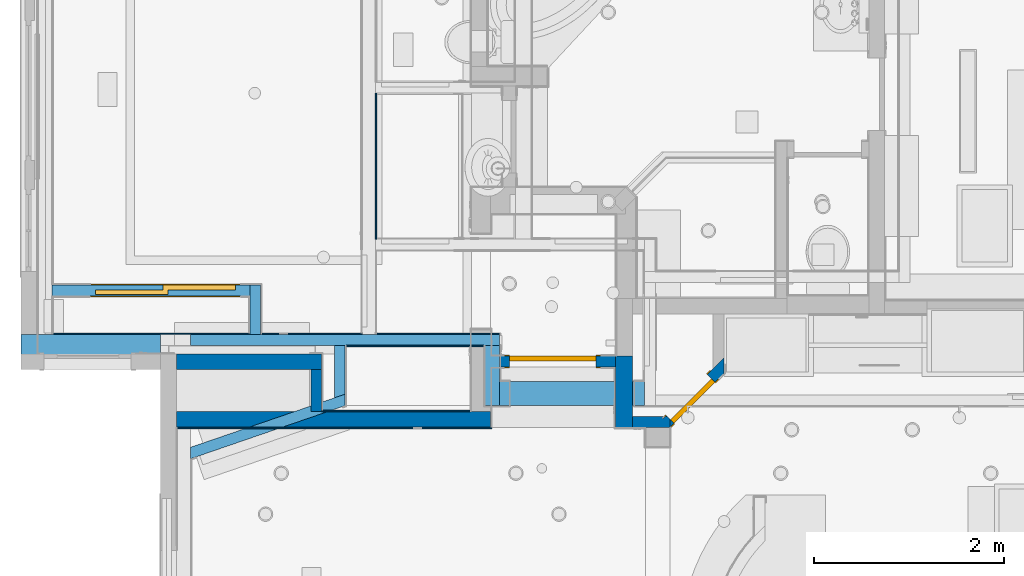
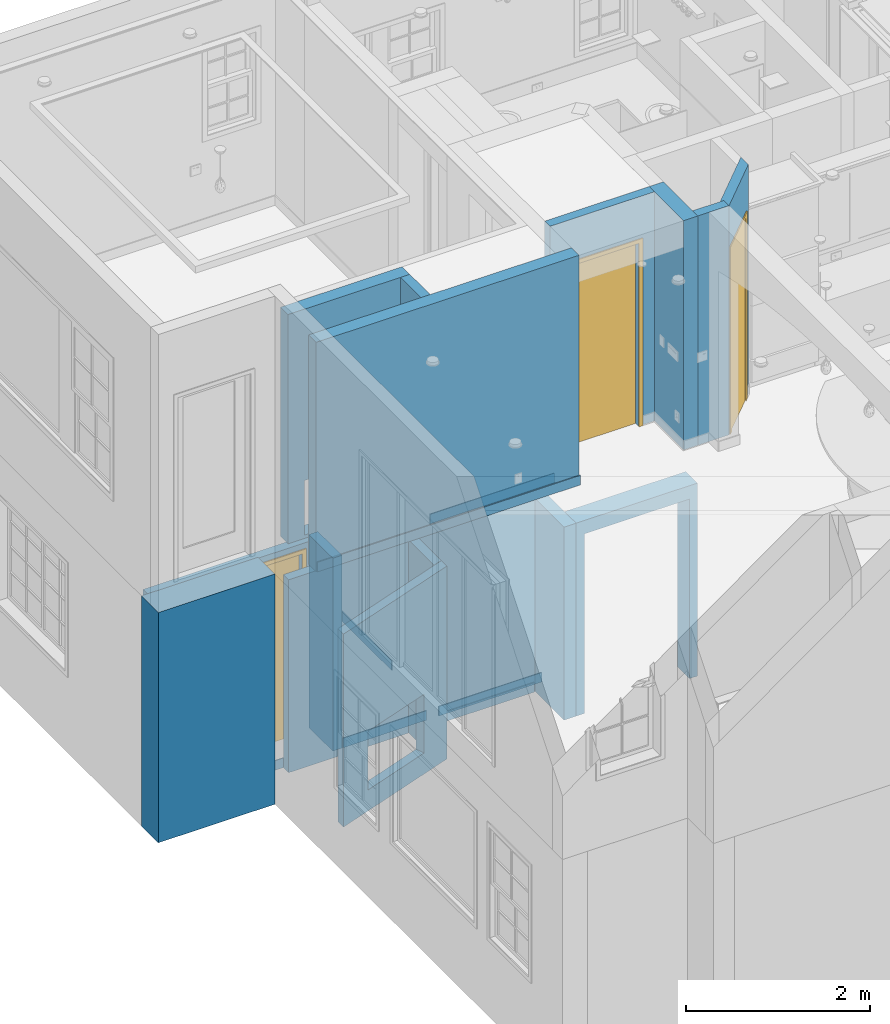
# One storey, part 8 of 81: 22 walls, 3 doors, 9 openings.
"""IFC2X3 building model written with IfcOpenShell, lengths in feet."""

from ifc_helpers import new_model, entity, si_unit, converted_unit, derived_unit, direction, frame, frame_2d, origin, origin_2d_with_axis, place, context, subcontext, project, spatial, polyline, rectangle, outline, extrude, clip, bounded_halfspace, faceted_brep, source, transform, mapped, material, material_list, layer, layer_set, layer_usage, type_object, type_shapes, element, fill, save


model = new_model("IFC2X3")

# Units and contexts
model_context = context("Model", 3, precision=0.0001, world=origin(), true_north=direction((6.12303176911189e-17, 1.0)))
body_context = subcontext(model_context, "Body", "Model", "MODEL_VIEW")
ifc_project = project(units=[converted_unit("LENGTHUNIT", "FOOT", entity("IfcRatioMeasure", 0.3048), si_unit("LENGTHUNIT", "METRE"), dimensions=[1, 0, 0, 0, 0, 0, 0]), converted_unit("AREAUNIT", "SQUARE FOOT", entity("IfcRatioMeasure", 0.09290304), si_unit("AREAUNIT", "SQUARE_METRE"), dimensions=[2, 0, 0, 0, 0, 0, 0]), converted_unit("VOLUMEUNIT", "CUBIC FOOT", entity("IfcRatioMeasure", 0.028316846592), si_unit("VOLUMEUNIT", "CUBIC_METRE"), dimensions=[3, 0, 0, 0, 0, 0, 0]), converted_unit("PLANEANGLEUNIT", "DEGREE", entity("IfcRatioMeasure", 0.0174532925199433), si_unit("PLANEANGLEUNIT", "RADIAN"), dimensions=[0, 0, 0, 0, 0, 0, 0]), si_unit("MASSUNIT", "GRAM", prefix="KILO"), derived_unit("MASSDENSITYUNIT", [(si_unit("MASSUNIT", "GRAM", prefix="KILO"), 1), (si_unit("LENGTHUNIT", "METRE"), -3)]), derived_unit("MOMENTOFINERTIAUNIT", [(si_unit("LENGTHUNIT", "METRE"), 4)]), si_unit("TIMEUNIT", "SECOND"), si_unit("FREQUENCYUNIT", "HERTZ"), si_unit("THERMODYNAMICTEMPERATUREUNIT", "DEGREE_CELSIUS"), derived_unit("THERMALTRANSMITTANCEUNIT", [(si_unit("MASSUNIT", "GRAM", prefix="KILO"), 1), (si_unit("THERMODYNAMICTEMPERATUREUNIT", "KELVIN"), -1), (si_unit("TIMEUNIT", "SECOND"), -3)]), derived_unit("VOLUMETRICFLOWRATEUNIT", [(si_unit("LENGTHUNIT", "METRE"), 3), (si_unit("TIMEUNIT", "SECOND"), -1)]), si_unit("ELECTRICCURRENTUNIT", "AMPERE"), si_unit("ELECTRICVOLTAGEUNIT", "VOLT"), si_unit("POWERUNIT", "WATT"), si_unit("FORCEUNIT", "NEWTON"), si_unit("ILLUMINANCEUNIT", "LUX"), si_unit("LUMINOUSFLUXUNIT", "LUMEN"), si_unit("LUMINOUSINTENSITYUNIT", "CANDELA"), derived_unit("USERDEFINED", [(si_unit("MASSUNIT", "GRAM", prefix="KILO"), -1), (si_unit("LENGTHUNIT", "METRE"), -2), (si_unit("TIMEUNIT", "SECOND"), 3), (si_unit("LUMINOUSFLUXUNIT", "LUMEN"), 1)]), derived_unit("LINEARVELOCITYUNIT", [(si_unit("LENGTHUNIT", "METRE"), 1), (si_unit("TIMEUNIT", "SECOND"), -1)]), si_unit("PRESSUREUNIT", "PASCAL"), derived_unit("USERDEFINED", [(si_unit("LENGTHUNIT", "METRE"), -2), (si_unit("MASSUNIT", "GRAM", prefix="KILO"), 1), (si_unit("TIMEUNIT", "SECOND"), -2)]), derived_unit("LINEARFORCEUNIT", [(si_unit("MASSUNIT", "GRAM", prefix="KILO"), 1), (si_unit("LENGTHUNIT", "METRE"), 1), (si_unit("TIMEUNIT", "SECOND"), -2), (si_unit("LENGTHUNIT", "METRE"), -1)]), derived_unit("PLANARFORCEUNIT", [(si_unit("MASSUNIT", "GRAM", prefix="KILO"), 1), (si_unit("LENGTHUNIT", "METRE"), 1), (si_unit("TIMEUNIT", "SECOND"), -2), (si_unit("LENGTHUNIT", "METRE"), -2)])], contexts=[model_context])

# Site, building, storey
site_placement = place(None, origin())
site = spatial("IfcSite", under=ifc_project, at=site_placement, Name="Default", CompositionType="ELEMENT")
building_placement = place(site_placement, origin())
building = spatial("IfcBuilding", under=site, at=building_placement, CompositionType="ELEMENT")
storey_placement = place(building_placement, origin())
storey = spatial("IfcBuildingStorey", under=building, at=storey_placement, Name="First floor", CompositionType="ELEMENT", Elevation=0.0)

# Wall, openings
ifc_material = material(Name="Default New Material")
ifc_layer_1 = layer(ifc_material, 0.541666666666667)
ifc_layer_set_1 = layer_set([ifc_layer_1], Name="Basic Wall:Wall_6.5\"")
ifc_layer_usage_1 = layer_usage(ifc_layer_set_1, "AXIS2", "NEGATIVE", 0.270833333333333)
wall_type_1 = type_object("IfcWallType", Name="Basic Wall:Wall_6.5\"", PredefinedType="STANDARD", material=ifc_layer_set_1)
wall_1_placement = place(storey_placement, frame((-16.5, 31.3125, 10.6666666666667)))
wall_1 = element("IfcWallStandardCase", 1, at=wall_1_placement, inside=storey, type_object=wall_type_1, material=ifc_layer_usage_1, Name="Basic Wall:Wall_6.5\"", ObjectType="Basic Wall:Wall_6.5\"", context=body_context, shape_type="SweptSolid", body=[
    extrude(rectangle(XDim=5.02083333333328, YDim=0.541666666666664, at=frame_2d((2.51041666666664, 5.82867087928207e-16), x_axis=(-1.0, 0.0))), origin(), (0.0, 0.0, 1.0), 10.0),
])
opening_1_placement = place(wall_1_placement, origin())
element("IfcOpeningElement", 2, at=opening_1_placement, cuts=wall_1, Name="Basic Wall:Wall_6.5\"", ObjectType="Recess", context=body_context, shape_type="SweptSolid", body=[
    extrude(rectangle(XDim=4.33333333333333, YDim=3.83333333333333, at=frame_2d((-8.88178419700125e-16, 0.0), x_axis=(1.0, 0.0))), frame((2.10416666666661, -0.229166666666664, 6.66666666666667), z_axis=(0.0, 1.0, 0.0), x_axis=(0.0, 0.0, -1.0)), (0.0, 0.0, 1.0), 0.5),
])
opening_2_placement = place(wall_1_placement, origin())
element("IfcOpeningElement", 3, at=opening_2_placement, cuts=wall_1, Name="Basic Wall:Wall_6.5\"", ObjectType="Opening", context=body_context, shape_type="SweptSolid", body=[
    extrude(rectangle(XDim=2.375, YDim=3.16666666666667, at=frame_2d((1.77635683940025e-15, 8.88178419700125e-16), x_axis=(0.0, 1.0))), frame((2.27084441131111, -0.42018629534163, 1.33333333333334), z_axis=(0.0, 1.0, 0.0), x_axis=(-1.0, 0.0, 0.0)), (0.0, 0.0, 1.0), 0.691019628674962),
])

# Walls
ifc_layer_usage_2 = layer_usage(ifc_layer_set_1, "AXIS2", "NEGATIVE", 0.270833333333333)
wall_2_placement = place(storey_placement, frame((-16.5, 29.3125, 10.6666666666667)))
element("IfcWallStandardCase", 4, at=wall_2_placement, inside=storey, type_object=wall_type_1, material=ifc_layer_usage_2, Name="Basic Wall:Wall_6.5\"", ObjectType="Basic Wall:Wall_6.5\"", context=body_context, shape_type="SweptSolid", body=[
    extrude(rectangle(XDim=10.8541666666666, YDim=0.541666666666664, at=frame_2d((5.42708333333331, 0.0), x_axis=(-1.0, 0.0))), origin(), (0.0, 0.0, 1.0), 10.0),
])
ifc_layer_2 = layer(ifc_material, 0.375)
ifc_layer_set_2 = layer_set([ifc_layer_2], Name="Basic Wall:Wall_4.5\"")
ifc_layer_usage_3 = layer_usage(ifc_layer_set_2, "AXIS2", "NEGATIVE", 0.1875)
wall_type_2 = type_object("IfcWallType", Name="Basic Wall:Wall_4.5\"", PredefinedType="STANDARD", material=ifc_layer_set_2)
wall_3_placement = place(storey_placement, frame((-11.6666666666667, 31.0416666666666, 10.6666666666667), z_axis=(0.0, 0.0, 1.0), x_axis=(0.0, -1.0, 0.0)))
element("IfcWallStandardCase", 5, at=wall_3_placement, inside=storey, type_object=wall_type_2, material=ifc_layer_usage_3, Name="Basic Wall:Wall_4.5\"", ObjectType="Basic Wall:Wall_4.5\"", context=body_context, shape_type="SweptSolid", body=[
    extrude(rectangle(XDim=1.45833333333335, YDim=0.375, at=frame_2d((0.729166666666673, 0.0), x_axis=(-1.0, 0.0))), origin(), (0.0, 0.0, 1.0), 10.0),
])

# Wall, openings
ifc_layer_usage_4 = layer_usage(ifc_layer_set_2, "AXIS2", "NEGATIVE", 0.1875)
wall_4_placement = place(storey_placement, frame((-0.749999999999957, 29.2291666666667, 10.6666666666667)))
wall_4 = element("IfcWallStandardCase", 6, at=wall_4_placement, inside=storey, type_object=wall_type_2, material=ifc_layer_usage_4, Name="Basic Wall:Wall_4.5\"", ObjectType="Basic Wall:Wall_4.5\"", context=body_context, shape_type="SweptSolid", body=[
    extrude(rectangle(XDim=1.29166666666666, YDim=0.375, at=frame_2d((0.64583333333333, 0.0), x_axis=(-1.0, 0.0))), origin(), (0.0, 0.0, 1.0), 10.0),
])
opening_3_placement = place(wall_4_placement, origin())
element("IfcOpeningElement", 7, at=opening_3_placement, cuts=wall_4, Name="Basic Wall:Wall_4.5\"", ObjectType="Opening", context=body_context, shape_type="SweptSolid", body=[
    extrude(rectangle(XDim=8.0, YDim=0.374999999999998, at=frame_2d((1.87350135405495e-15, -8.88178419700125e-16), x_axis=(0.0, 1.0))), frame((1.30648797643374, 0.0924863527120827, 4.0), z_axis=(0.707106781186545, 0.70710678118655, 0.0), x_axis=(0.70710678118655, -0.707106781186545, 0.0)), (0.0, 0.0, 1.0), 2.0),
])
opening_4_placement = place(wall_4_placement, frame((1.0265915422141, 0.107217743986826, 0.0)))
element("IfcOpeningElement", 8, at=opening_4_placement, cuts=wall_4, Name="Basic Wall:Wall_4.5\"", ObjectType="Recess", context=body_context, shape_type="Brep", body=[
    faceted_brep([(0.0, 0.0294627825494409, 0.0), (0.050819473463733, 0.0802822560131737, 0.0), (0.109745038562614, 0.0802822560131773, 0.0), (0.0294627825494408, 0.0, 0.0), (0.0, 0.0294627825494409, 8.16666666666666), (0.0294627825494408, 0.0, 8.16666666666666), (0.109745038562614, 0.0802822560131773, 8.16666666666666), (0.0508194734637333, 0.0802822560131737, 8.16666666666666)], [[[0, 1, 2, 3]], [[4, 5, 6, 7]], [[5, 4, 0, 3]], [[6, 5, 3, 2]], [[7, 6, 2, 1]], [[4, 7, 1, 0]]]),
])

# Wall, opening, door
ifc_layer_usage_5 = layer_usage(ifc_layer_set_2, "AXIS2", "NEGATIVE", 0.1875)
wall_5_placement = place(storey_placement, frame((0.409084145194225, 29.1742491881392, 10.6666666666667), z_axis=(0.0, 0.0, 1.0), x_axis=(0.707106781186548, 0.707106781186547, 0.0)))
wall_5 = element("IfcWallStandardCase", 9, at=wall_5_placement, inside=storey, type_object=wall_type_2, material=ifc_layer_usage_5, Name="Basic Wall:Wall_4.5\"", ObjectType="Basic Wall:Wall_4.5\"", context=body_context, shape_type="SweptSolid", body=[
    extrude(outline(polyline([(0.0, -0.187499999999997), (2.65117364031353, -0.187499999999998), (3.02617364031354, 0.187500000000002), (2.49584355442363, 0.187500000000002), (0.155330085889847, 0.187500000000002), (0.265165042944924, 0.0776650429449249), (0.0, -0.187499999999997)])), origin(), (0.0, 0.0, 1.0), 10.0),
])
opening_5_placement = place(wall_5_placement, frame((2.20846049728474, 0.187499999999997, 0.0)))
opening_5 = element("IfcOpeningElement", 10, at=opening_5_placement, cuts=wall_5, Name="Door_1:2'-0\" X 8'-0\":1", ObjectType="Opening", context=body_context, shape_type="SweptSolid", body=[
    extrude(rectangle(XDim=2.0, YDim=8.0, at=frame_2d((4.0, 1.0), x_axis=(0.0, 1.0))), frame((0.0, 0.0, 0.0), z_axis=(0.0, -1.0, 0.0), x_axis=(0.0, 0.0, 1.0)), (0.0, 0.0, 1.0), 0.375),
])
ifc_material_list_1 = material_list([ifc_material, ifc_material])
door_style_1 = type_object("IfcDoorStyle", Name="Door_1:2'-0\" X 8'-0\"", ConstructionType="NOTDEFINED", OperationType="SINGLE_SWING_RIGHT", ParameterTakesPrecedence=False, Sizeable=False, material=ifc_material_list_1)
shared_shape_1 = source(origin(), body_context, "Body", "SweptSolid", [
    extrude(outline(polyline([(-1.16666666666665, -4.125), (1.16666666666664, -4.125), (1.16666666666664, 4.04166666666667), (1.0, 4.04166666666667), (1.0, -3.95833333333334), (-1.0, -3.95833333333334), (-1.0, 4.04166666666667), (-1.16666666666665, 4.04166666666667), (-1.16666666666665, -4.125)])), frame((1.0, 0.375000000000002, 4.04166666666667), z_axis=(0.0, 1.0, 0.0), x_axis=(1.0, 0.0, 0.0)), (0.0, 0.0, 1.0), 0.0416666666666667),
    extrude(outline(polyline([(-4.125, -1.16666666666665), (4.04166666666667, -1.16666666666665), (4.04166666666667, -1.0), (-3.95833333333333, -1.0), (-3.95833333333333, 1.0), (4.04166666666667, 1.0), (4.04166666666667, 1.16666666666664), (-4.125, 1.16666666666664), (-4.125, -1.16666666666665)])), frame((1.0, -0.0416666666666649, 4.04166666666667), z_axis=(0.0, 1.0, 0.0), x_axis=(0.0, 0.0, -1.0)), (0.0, 0.0, 1.0), 0.0416666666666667),
    extrude(rectangle(XDim=0.166666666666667, YDim=2.0, at=origin_2d_with_axis()), frame((1.0, 0.291666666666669, 0.0), z_axis=(0.0, 0.0, 1.0), x_axis=(0.0, 1.0, 0.0)), (0.0, 0.0, 1.0), 8.0),
])
type_shapes(door_style_1, [shared_shape_1])
door_1_placement = place(opening_5_placement, frame((0.0, 0.0, 0.0), z_axis=(0.0, 0.0, 1.0), x_axis=(-1.0, 0.0, 0.0)))
door_1 = element("IfcDoor", 11, at=door_1_placement, inside=storey, type_object=door_style_1, material=ifc_material, Name="Door_1:2'-0\" X 8'-0\"", ObjectType="Door_1:2'-0\" X 8'-0\"", OverallHeight=8.0, OverallWidth=2.0, context=body_context, shape_type="MappedRepresentation", body=[
    mapped(shared_shape_1, transform((0.0, 0.0, 0.0), scale=1.0)),
])
fill(opening_5, door_1)

ifc_layer_usage_6 = layer_usage(ifc_layer_set_2, "AXIS2", "NEGATIVE", 0.1875)
wall_6_placement = place(storey_placement, frame((-5.64583333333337, 31.3125, 10.6666666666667)))
wall_6 = element("IfcWallStandardCase", 12, at=wall_6_placement, inside=storey, type_object=wall_type_2, material=ifc_layer_usage_6, Name="Basic Wall:Wall_4.5\"", ObjectType="Basic Wall:Wall_4.5\"", context=body_context, shape_type="SweptSolid", body=[
    extrude(rectangle(XDim=4.31250000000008, YDim=0.375, at=frame_2d((2.15625000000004, -8.46545056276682e-16), x_axis=(-1.0, 0.0))), origin(), (0.0, 0.0, 1.0), 10.0),
])
opening_6_placement = place(wall_6_placement, frame((0.645833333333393, -0.187500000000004, 0.0)))
opening_6 = element("IfcOpeningElement", 13, at=opening_6_placement, cuts=wall_6, Name="Door_1:3'-0\" X 8'-0\":1", ObjectType="Opening", context=body_context, shape_type="SweptSolid", body=[
    extrude(rectangle(XDim=3.0, YDim=8.0, at=frame_2d((4.0, 1.5), x_axis=(0.0, 1.0))), frame((0.0, 0.0, 0.0), z_axis=(0.0, 1.0, 0.0), x_axis=(0.0, 0.0, 1.0)), (0.0, 0.0, 1.0), 0.375),
])
ifc_material_list_2 = material_list([ifc_material, ifc_material])
door_style_2 = type_object("IfcDoorStyle", Name="Door_1:3'-0\" X 8'-0\"", ConstructionType="NOTDEFINED", OperationType="SINGLE_SWING_RIGHT", ParameterTakesPrecedence=False, Sizeable=False, material=ifc_material_list_2)
shared_shape_2 = source(origin(), body_context, "Body", "SweptSolid", [
    extrude(outline(polyline([(-1.66666666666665, -4.125), (1.66666666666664, -4.125), (1.66666666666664, 4.04166666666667), (1.50000000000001, 4.04166666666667), (1.50000000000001, -3.95833333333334), (-1.49999999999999, -3.95833333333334), (-1.49999999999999, 4.04166666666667), (-1.66666666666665, 4.04166666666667), (-1.66666666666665, -4.125)])), frame((1.49999999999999, 0.375000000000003, 4.04166666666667), z_axis=(0.0, 1.0, 0.0), x_axis=(1.0, 0.0, 0.0)), (0.0, 0.0, 1.0), 0.0416666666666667),
    extrude(outline(polyline([(-4.125, -1.66666666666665), (4.04166666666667, -1.66666666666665), (4.04166666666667, -1.49999999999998), (-3.95833333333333, -1.49999999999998), (-3.95833333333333, 1.49999999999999), (4.04166666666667, 1.49999999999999), (4.04166666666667, 1.66666666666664), (-4.125, 1.66666666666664), (-4.125, -1.66666666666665)])), frame((1.49999999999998, -0.0416666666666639, 4.04166666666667), z_axis=(0.0, 1.0, 0.0), x_axis=(0.0, 0.0, -1.0)), (0.0, 0.0, 1.0), 0.0416666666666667),
    extrude(rectangle(XDim=0.166666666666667, YDim=3.0, at=origin_2d_with_axis()), frame((1.5, 0.291666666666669, 0.0), z_axis=(0.0, 0.0, 1.0), x_axis=(0.0, 1.0, 0.0)), (0.0, 0.0, 1.0), 8.0),
])
type_shapes(door_style_2, [shared_shape_2])
door_2_placement = place(opening_6_placement, origin())
door_2 = element("IfcDoor", 14, at=door_2_placement, inside=storey, type_object=door_style_2, material=ifc_material, Name="Door_1:3'-0\" X 8'-0\"", ObjectType="Door_1:3'-0\" X 8'-0\"", OverallHeight=8.0, OverallWidth=3.0, context=body_context, shape_type="MappedRepresentation", body=[
    mapped(shared_shape_2, transform((0.0, 0.0, 0.0), scale=1.0)),
])
fill(opening_6, door_2)

# Wall, opening
ifc_layer_usage_7 = layer_usage(ifc_layer_set_2, "AXIS2", "NEGATIVE", 0.1875)
wall_7_placement = place(storey_placement, frame((-10.6057142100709, 30.0108877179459, 0.0), z_axis=(0.0, 0.0, 1.0), x_axis=(-0.945686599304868, -0.325079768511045, 0.0)))
wall_7 = element("IfcWallStandardCase", 15, at=wall_7_placement, inside=storey, type_object=wall_type_2, material=ifc_layer_usage_7, Name="Basic Wall:Wall_4.5\"", ObjectType="Basic Wall:Wall_4.5\"", context=body_context, shape_type="SweptSolid", body=[
    extrude(outline(polyline([(5.63964143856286, -0.187500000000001), (5.76854768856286, 0.187499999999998), (0.128906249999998, 0.187499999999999), (0.0, -0.1875), (0.39653728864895, -0.187500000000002), (5.63964143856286, -0.187500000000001)])), origin(), (0.0, 0.0, 1.0), 8.41666666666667),
])
opening_7_placement = place(wall_7_placement, origin())
element("IfcOpeningElement", 16, at=opening_7_placement, cuts=wall_7, Name="Basic Wall:Wall_4.5\"", ObjectType="Opening", context=body_context, shape_type="SweptSolid", body=[
    extrude(rectangle(XDim=2.5625, YDim=3.04166666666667, at=frame_2d((7.7715611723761e-16, 0.0), x_axis=(0.0, 1.0))), frame((2.89973958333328, -0.883333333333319, 2.19791666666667), z_axis=(0.0, 1.0, 0.0), x_axis=(-1.0, 0.0, 0.0)), (0.0, 0.0, 1.0), 1.07083333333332),
])

# Walls
ifc_layer_usage_8 = layer_usage(ifc_layer_set_2, "AXIS2", "POSITIVE", -0.1875)
wall_8_placement = place(storey_placement, frame((-10.8541666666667, 30.0592977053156, 0.0), z_axis=(0.0, 0.0, 1.0), x_axis=(0.0, 1.0, 0.0)))
element("IfcWallStandardCase", 17, at=wall_8_placement, inside=storey, type_object=wall_type_2, material=ifc_layer_usage_8, Name="Basic Wall:Wall_4.5\"", ObjectType="Basic Wall:Wall_4.5\"", context=body_context, shape_type="SweptSolid", body=[
    extrude(outline(polyline([(1.81570229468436, -0.1875), (1.81570229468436, 0.1875), (0.0, 0.1875), (0.128906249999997, -0.1875), (1.81570229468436, -0.1875)])), origin(), (0.0, 0.0, 1.0), 8.41666666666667),
])
ifc_layer_usage_9 = layer_usage(ifc_layer_set_2, "AXIS2", "NEGATIVE", 0.1875)
wall_9_placement = place(storey_placement, frame((-16.0, 32.0625, 0.0)))
element("IfcWallStandardCase", 18, at=wall_9_placement, inside=storey, type_object=wall_type_2, material=ifc_layer_usage_9, Name="Basic Wall:Wall_4.5\"", ObjectType="Basic Wall:Wall_4.5\"", context=body_context, shape_type="SweptSolid", body=[
    extrude(rectangle(XDim=10.6666666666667, YDim=0.375, at=frame_2d((5.33333333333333, 6.93889390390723e-16), x_axis=(-1.0, 0.0))), origin(), (0.0, 0.0, 1.0), 8.41666666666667),
])
ifc_layer_usage_10 = layer_usage(ifc_layer_set_2, "AXIS2", "POSITIVE", -0.1875)
wall_10_placement = place(storey_placement, frame((-13.7708333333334, 32.25, 0.0), z_axis=(0.0, 0.0, 1.0), x_axis=(0.0, 1.0, 0.0)))
element("IfcWallStandardCase", 19, at=wall_10_placement, inside=storey, type_object=wall_type_2, material=ifc_layer_usage_10, Name="Basic Wall:Wall_4.5\"", ObjectType="Basic Wall:Wall_4.5\"", context=body_context, shape_type="SweptSolid", body=[
    extrude(rectangle(XDim=1.70833333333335, YDim=0.375, at=frame_2d((0.854166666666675, 4.9960036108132e-16), x_axis=(-1.0, 0.0))), origin(), (0.0, 0.0, 1.0), 8.41666666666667),
])

# Wall, opening, door
ifc_layer_usage_11 = layer_usage(ifc_layer_set_2, "AXIS2", "POSITIVE", -0.1875)
wall_11_placement = place(storey_placement, frame((-13.9583333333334, 33.7708333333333, 0.0), z_axis=(0.0, 0.0, 1.0), x_axis=(-1.0, 0.0, 0.0)))
wall_11 = element("IfcWallStandardCase", 20, at=wall_11_placement, inside=storey, type_object=wall_type_2, material=ifc_layer_usage_11, Name="Basic Wall:Wall_4.5\"", ObjectType="Basic Wall:Wall_4.5\"", context=body_context, shape_type="SweptSolid", body=[
    extrude(rectangle(XDim=6.83333333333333, YDim=0.375, at=frame_2d((3.41666666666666, 0.0), x_axis=(-1.0, 0.0))), origin(), (0.0, 0.0, 1.0), 8.41666666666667),
])
opening_8_placement = place(wall_11_placement, frame((0.499999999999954, -0.187500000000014, 0.0)))
opening_8 = element("IfcOpeningElement", 21, at=opening_8_placement, cuts=wall_11, Name="Door_7:4'-10\" X 8'-0\":1", ObjectType="Opening", context=body_context, shape_type="SweptSolid", body=[
    extrude(rectangle(XDim=7.99999999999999, YDim=4.83333333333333, at=frame_2d((4.0, 2.41666666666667), x_axis=(-1.0, 0.0))), frame((0.0, 0.0, 0.0), z_axis=(0.0, 1.0, 0.0), x_axis=(0.0, 0.0, 1.0)), (0.0, 0.0, 1.0), 0.375),
])
ifc_material_list_3 = material_list([ifc_material, ifc_material])
door_style_3 = type_object("IfcDoorStyle", Name="Door_7:4'-10\" X 8'-0\"", ConstructionType="NOTDEFINED", OperationType="NOTDEFINED", ParameterTakesPrecedence=False, Sizeable=False, material=ifc_material_list_3)
shared_shape_3 = source(origin(), body_context, "Body", "SweptSolid", [
    extrude(outline(polyline([(-2.41666666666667, -3.95833333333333), (-2.41666666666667, 4.04166666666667), (-2.58333333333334, 4.04166666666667), (-2.58333333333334, -4.12499999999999), (2.58333333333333, -4.125), (2.58333333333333, 4.04166666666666), (2.41666666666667, 4.04166666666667), (2.41666666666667, -3.95833333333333), (-2.41666666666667, -3.95833333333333)])), frame((2.41666666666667, 1.25000000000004, 4.04166666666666), z_axis=(0.0, 1.0, 0.0), x_axis=(1.0, 0.0, 0.0)), (0.0, 0.0, -1.0), 0.0416666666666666),
    extrude(outline(polyline([(-4.04166666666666, -2.41666666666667), (-4.04166666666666, -2.58333333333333), (4.125, -2.58333333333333), (4.125, 2.58333333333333), (-4.04166666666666, 2.58333333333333), (-4.04166666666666, 2.41666666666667), (3.95833333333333, 2.41666666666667), (3.95833333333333, -2.41666666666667), (-4.04166666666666, -2.41666666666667)])), frame((2.41666666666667, 0.833333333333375, 4.04166666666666), z_axis=(0.0, 1.0, 0.0), x_axis=(0.0, 0.0, 1.0)), (0.0, 0.0, -1.0), 0.0416666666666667),
    extrude(rectangle(XDim=2.49999999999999, YDim=0.166666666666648, at=frame_2d((2.22044604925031e-16, 0.0), x_axis=(1.0, 0.0))), frame((1.25, 0.916666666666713, 0.0), z_axis=(0.0, 0.0, 1.0), x_axis=(-1.0, 0.0, 0.0)), (0.0, 0.0, 1.0), 7.99999999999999),
    extrude(rectangle(XDim=2.49999999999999, YDim=0.166666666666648, at=frame_2d((-2.22044604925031e-16, -2.77555756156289e-17), x_axis=(1.0, 0.0))), frame((3.58333333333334, 1.08333333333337, 0.0), z_axis=(0.0, 0.0, 1.0), x_axis=(-1.0, 0.0, 0.0)), (0.0, 0.0, 1.0), 7.99999999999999),
])
type_shapes(door_style_3, [shared_shape_3])
door_3_placement = place(opening_8_placement, frame((0.0, -0.833333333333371, 0.0)))
door_3 = element("IfcDoor", 22, at=door_3_placement, inside=storey, type_object=door_style_3, material=ifc_material, Name="Door_7:4'-10\" X 8'-0\"", ObjectType="Door_7:4'-10\" X 8'-0\"", OverallHeight=7.99999999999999, OverallWidth=4.83333333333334, context=body_context, shape_type="MappedRepresentation", body=[
    mapped(shared_shape_3, transform((0.0, 0.0, 0.0), scale=1.0)),
])
fill(opening_8, door_3)

# Wall, opening
ifc_layer_3 = layer(ifc_material, 0.833333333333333)
ifc_layer_set_3 = layer_set([ifc_layer_3], Name="Basic Wall:Wall_10\"")
ifc_layer_usage_12 = layer_usage(ifc_layer_set_3, "AXIS2", "POSITIVE", -0.416666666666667)
wall_type_3 = type_object("IfcWallType", Name="Basic Wall:Wall_10\"", PredefinedType="STANDARD", material=ifc_layer_set_3)
wall_12_placement = place(storey_placement, frame((-0.333333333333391, 30.2083333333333, 0.0), z_axis=(0.0, 0.0, 1.0), x_axis=(-1.0, 0.0, 0.0)))
wall_12 = element("IfcWallStandardCase", 23, at=wall_12_placement, inside=storey, type_object=wall_type_3, material=ifc_layer_usage_12, Name="Basic Wall:Wall_10\"", ObjectType="Basic Wall:Wall_10\"", context=body_context, shape_type="SweptSolid", body=[
    extrude(rectangle(XDim=5.0, YDim=0.833333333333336, at=frame_2d((2.5, -6.38378239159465e-16), x_axis=(-1.0, 0.0))), origin(), (0.0, 0.0, 1.0), 8.41666666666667),
])
opening_9_placement = place(wall_12_placement, origin())
element("IfcOpeningElement", 24, at=opening_9_placement, cuts=wall_12, Name="Basic Wall:Wall_10\"", ObjectType="Opening", context=body_context, shape_type="SweptSolid", body=[
    extrude(rectangle(XDim=7.83333333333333, YDim=4.33333333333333, at=origin_2d_with_axis()), frame((2.49999999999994, -0.416666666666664, 3.91666666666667), z_axis=(0.0, 1.0, 0.0), x_axis=(0.0, 0.0, -1.0)), (0.0, 0.0, 1.0), 0.833333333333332),
])

# Walls
ifc_layer_4 = layer(ifc_material, 0.583333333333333)
ifc_layer_set_4 = layer_set([ifc_layer_4], Name="Basic Wall:Wall_7\"")
ifc_layer_usage_13 = layer_usage(ifc_layer_set_4, "AXIS2", "POSITIVE", -0.291666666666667)
wall_type_4 = type_object("IfcWallType", Name="Basic Wall:Wall_7\"", PredefinedType="STANDARD", material=ifc_layer_set_4)
wall_13_placement = place(storey_placement, frame((-1.04166666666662, 29.0416666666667, 10.6666666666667), z_axis=(0.0, 0.0, 1.0), x_axis=(0.0, 1.0, 0.0)))
element("IfcWallStandardCase", 25, at=wall_13_placement, inside=storey, type_object=wall_type_4, material=ifc_layer_usage_13, Name="Basic Wall:Wall_7\"", ObjectType="Basic Wall:Wall_7\"", context=body_context, shape_type="SweptSolid", body=[
    extrude(rectangle(XDim=2.45833333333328, YDim=0.583333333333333, at=frame_2d((1.22916666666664, -8.32667268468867e-17), x_axis=(-1.0, 0.0))), origin(), (0.0, 0.0, 1.0), 10.0),
])
ifc_layer_5 = layer(ifc_material, 1.20833333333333)
ifc_layer_set_5 = layer_set([ifc_layer_5], Name="Basic Wall:Wall_1' 2 1/2\"")
ifc_layer_usage_14 = layer_usage(ifc_layer_set_5, "AXIS2", "NEGATIVE", 0.604166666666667)
wall_type_5 = type_object("IfcWallType", Name="Basic Wall:Wall_1' 2 1/2\"", PredefinedType="STANDARD", material=ifc_layer_set_5)
wall_14_placement = place(storey_placement, frame((-17.0416666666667, 31.6458333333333, -0.5), z_axis=(0.0, 0.0, 1.0), x_axis=(-1.0, 0.0, 0.0)))
element("IfcWallStandardCase", 26, at=wall_14_placement, inside=storey, type_object=wall_type_5, material=ifc_layer_usage_14, Name="Basic Wall:Wall_1' 2 1/2\"", ObjectType="Basic Wall:Wall_1' 2 1/2\"", context=body_context, shape_type="SweptSolid", body=[
    extrude(rectangle(XDim=4.81250000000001, YDim=1.20833333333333, at=frame_2d((2.40625, 3.60822483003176e-15), x_axis=(-1.0, 0.0))), origin(), (0.0, 0.0, 1.0), 10.0416666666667),
])
ifc_layer_6 = layer(ifc_material, 0.5)
ifc_layer_set_6 = layer_set([ifc_layer_6], Name="Basic Wall:Wall_6\"")
ifc_layer_usage_15 = layer_usage(ifc_layer_set_6, "AXIS2", "NEGATIVE", 0.25)
wall_type_6 = type_object("IfcWallType", Name="Basic Wall:Wall_6\"", PredefinedType="STANDARD", material=ifc_layer_set_6)
wall_15_placement = place(storey_placement, frame((-5.58333333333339, 31.8749999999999, 0.0), z_axis=(0.0, 0.0, 1.0), x_axis=(0.0, -1.0, 0.0)))
element("IfcWallStandardCase", 27, at=wall_15_placement, inside=storey, type_object=wall_type_6, material=ifc_layer_usage_15, Name="Basic Wall:Wall_6\"", ObjectType="Basic Wall:Wall_6\"", context=body_context, shape_type="SweptSolid", body=[
    extrude(rectangle(XDim=2.08333333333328, YDim=0.5, at=frame_2d((1.04166666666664, 0.0), x_axis=(-1.0, 0.0))), origin(), (0.0, 0.0, 1.0), 8.41666666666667),
])
ifc_layer_7 = layer(ifc_material, 0.0416666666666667)
ifc_layer_set_7 = layer_set([ifc_layer_7], Name="Basic Wall:Wall Border_T1")
ifc_layer_usage_16 = layer_usage(ifc_layer_set_7, "AXIS2", "POSITIVE", -0.0208333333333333)
wall_type_7 = type_object("IfcWallType", Name="Basic Wall:Wall Border_T1", PredefinedType="STANDARD", material=ifc_layer_set_7)
wall_16_placement = place(storey_placement, frame((-10.625, 31.8541666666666, 0.0)))
element("IfcWallStandardCase", 28, at=wall_16_placement, inside=storey, type_object=wall_type_7, material=ifc_layer_usage_16, Name="Basic Wall:Wall Border_T1", ObjectType="Basic Wall:Wall Border_T1", context=body_context, shape_type="SweptSolid", body=[
    extrude(rectangle(XDim=4.74999999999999, YDim=0.0416666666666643, at=frame_2d((2.37499999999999, -1.23165366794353e-16), x_axis=(-1.0, 0.0))), origin(), (0.0, 0.0, 1.0), 0.416666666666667),
])
ifc_layer_usage_17 = layer_usage(ifc_layer_set_7, "AXIS2", "POSITIVE", -0.0208333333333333)
wall_17_placement = place(storey_placement, frame((-5.33333333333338, 32.2708333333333, 0.0), z_axis=(0.0, 0.0, 1.0), x_axis=(-1.0, 0.0, 0.0)))
element("IfcWallStandardCase", 29, at=wall_17_placement, inside=storey, type_object=wall_type_7, material=ifc_layer_usage_17, Name="Basic Wall:Wall Border_T1", ObjectType="Basic Wall:Wall Border_T1", context=body_context, shape_type="SweptSolid", body=[
    extrude(rectangle(XDim=4.25, YDim=0.0416666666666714, at=frame_2d((2.125, -6.93889390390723e-17), x_axis=(-1.0, 0.0))), origin(), (0.0, 0.0, 1.0), 0.416666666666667),
])
ifc_layer_usage_18 = layer_usage(ifc_layer_set_7, "AXIS2", "NEGATIVE", 0.0208333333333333)
wall_18_placement = place(storey_placement, frame((-20.7500000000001, 32.2708333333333, 0.0)))
element("IfcWallStandardCase", 30, at=wall_18_placement, inside=storey, type_object=wall_type_7, material=ifc_layer_usage_18, Name="Basic Wall:Wall Border_T1", ObjectType="Basic Wall:Wall Border_T1", context=body_context, shape_type="Clipping", body=[
    clip(extrude(rectangle(XDim=6.79166666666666, YDim=0.0416666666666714, at=frame_2d((3.39583333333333, -6.41847686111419e-17), x_axis=(-1.0, 0.0))), origin(), (0.0, 0.0, 1.0), 0.416666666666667), bounded_halfspace(frame((0.0, -0.0208333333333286, 0.0), z_axis=(1.0, 0.0, 0.0), x_axis=(0.0, 1.0, 0.0)), True, frame((0.0, -0.0208333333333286, 0.0), z_axis=(1.0, 0.0, 0.0), x_axis=(0.0, 1.0, 0.0)), polyline([(0.0, 0.0), (0.0416666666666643, 0.0), (0.0416666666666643, 0.416666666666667), (0.0, 0.416666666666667), (0.0, 0.0)]))),
])
ifc_layer_usage_19 = layer_usage(ifc_layer_set_7, "AXIS2", "POSITIVE", -0.0208333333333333)
wall_19_placement = place(storey_placement, frame((-10.0833333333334, 32.2708333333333, 0.0), z_axis=(0.0, 0.0, 1.0), x_axis=(-1.0, 0.0, 0.0)))
element("IfcWallStandardCase", 31, at=wall_19_placement, inside=storey, type_object=wall_type_7, material=ifc_layer_usage_19, Name="Basic Wall:Wall Border_T1", ObjectType="Basic Wall:Wall Border_T1", context=body_context, shape_type="Clipping", body=[
    clip(extrude(rectangle(XDim=3.45833333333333, YDim=0.0416666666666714, at=frame_2d((1.72916666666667, -8.50014503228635e-17), x_axis=(-1.0, 0.0))), origin(), (0.0, 0.0, 1.0), 0.416666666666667), bounded_halfspace(frame((3.45833333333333, -0.0208333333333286, 0.416666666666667), z_axis=(-1.0, 0.0, 0.0), x_axis=(0.0, -1.0, 0.0)), True, frame((3.45833333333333, -0.0208333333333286, 0.416666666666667), z_axis=(-1.0, 0.0, 0.0), x_axis=(0.0, -1.0, 0.0)), polyline([(0.0, 0.0), (-0.0416666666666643, 0.0), (-0.0416666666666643, -0.416666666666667), (0.0, -0.416666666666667), (0.0, 0.0)]))),
])
ifc_layer_usage_20 = layer_usage(ifc_layer_set_7, "AXIS2", "POSITIVE", -0.0208333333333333)
wall_20_placement = place(storey_placement, frame((-9.60416666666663, 40.5833333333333, 0.0), z_axis=(0.0, 0.0, 1.0), x_axis=(0.0, -1.0, 0.0)))
element("IfcWallStandardCase", 32, at=wall_20_placement, inside=storey, type_object=wall_type_7, material=ifc_layer_usage_20, Name="Basic Wall:Wall Border_T1", ObjectType="Basic Wall:Wall Border_T1", context=body_context, shape_type="SweptSolid", body=[
    extrude(rectangle(XDim=5.04166666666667, YDim=0.0416666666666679, at=frame_2d((2.52083333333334, 0.0), x_axis=(-1.0, 0.0))), origin(), (0.0, 0.0, 1.0), 0.416666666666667),
])
ifc_layer_usage_21 = layer_usage(ifc_layer_set_7, "AXIS2", "NEGATIVE", 0.0208333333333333)
wall_21_placement = place(storey_placement, frame((-6.3541666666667, 29.6041666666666, 10.6666666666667), z_axis=(0.0, 0.0, 1.0), x_axis=(-1.0, 0.0, 0.0)))
element("IfcWallStandardCase", 33, at=wall_21_placement, inside=storey, type_object=wall_type_7, material=ifc_layer_usage_21, Name="Basic Wall:Wall Border_T1", ObjectType="Basic Wall:Wall Border_T1", context=body_context, shape_type="SweptSolid", body=[
    extrude(rectangle(XDim=5.12499999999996, YDim=0.0416666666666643, at=frame_2d((2.56249999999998, 0.0), x_axis=(-1.0, 0.0))), origin(), (0.0, 0.0, 1.0), 0.416666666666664),
])
ifc_layer_usage_22 = layer_usage(ifc_layer_set_7, "AXIS2", "POSITIVE", -0.0208333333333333)
wall_22_placement = place(storey_placement, frame((-16.4583333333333, 29.0208333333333, 10.6666666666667)))
element("IfcWallStandardCase", 34, at=wall_22_placement, inside=storey, type_object=wall_type_7, material=ifc_layer_usage_22, Name="Basic Wall:Wall Border_T1", ObjectType="Basic Wall:Wall Border_T1", context=body_context, shape_type="SweptSolid", body=[
    extrude(rectangle(XDim=10.8541666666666, YDim=0.0416666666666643, at=frame_2d((5.42708333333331, 6.76542155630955e-17), x_axis=(-1.0, 0.0))), origin(), (0.0, 0.0, 1.0), 0.416666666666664),
])

save(model, "model.ifc")
